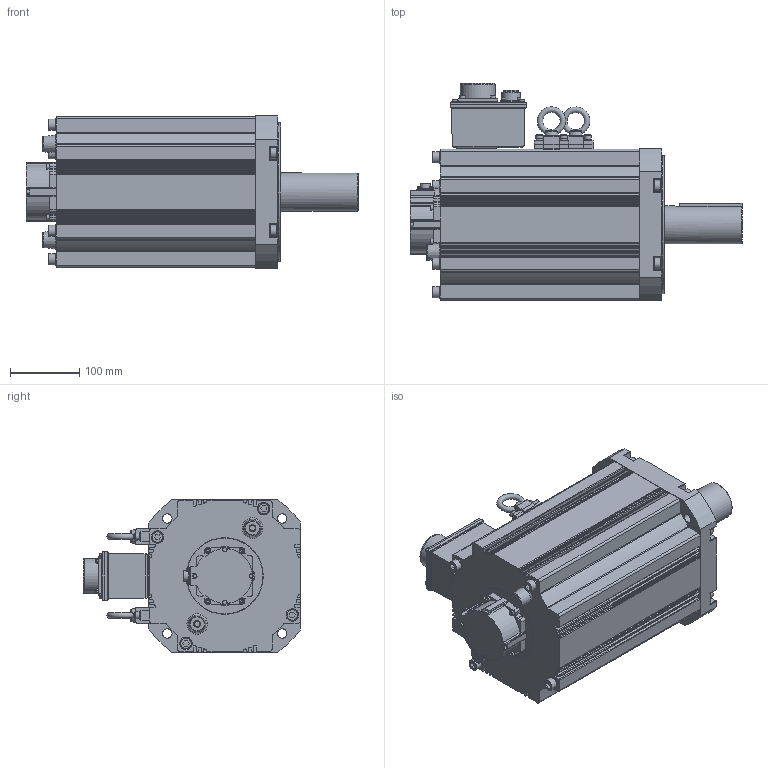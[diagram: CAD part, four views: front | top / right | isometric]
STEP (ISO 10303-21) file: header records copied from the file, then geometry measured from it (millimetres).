
FILE_DESCRIPTION( ( 'STEP AP0' ), '1' );
FILE_NAME( '//expscmdclustefs.cadenas.external/client_exchange/iodir/jobs/output/wkb64907999_no0/STEP/MDMEC14G1H_2_03.stp', ' ', ( ' ' ), ( ' ' ), 'PSStep 15.0.47', 'PARTsolutions', ' ' );
FILE_SCHEMA( ( 'CONFIG_CONTROL_DESIGN' ) );
Length unit declared in the file: millimetre
Products named in the file (1): HI_MDMEC14G1H
Bounding box: 480 x 315 x 220 mm (x, y, z)
Volume: 14411414.5 mm3; surface area: 536502.9 mm2
Topology: 1 solids, 1 shells, 1047 faces, 2684 edges, 1761 vertices
Faces by surface type: plane 605, cylinder 373, cone 50, torus 15, sphere 4
Full cylindrical faces by diameter (mm): 4.134 x1, 5 x4, 5.5 x8, 7 x12, 8 x14, 10 x6, 11 x4, 13.5 x4, 14.8 x1, 16 x12, 18 x12, 22.8 x1, 26.38 x1, 49.272 x1, 50.8 x1, 55 x1, 75 x1, 90 x1, 110 x1, 110.94 x1, 190 x1, 200 x1
Entity records: 31472 total; most frequent: CARTESIAN_POINT 6011, DIRECTION 5330, ORIENTED_EDGE 5036, EDGE_CURVE 2518, AXIS2_PLACEMENT_3D 1827, VERTEX_POINT 1750, LINE 1676, VECTOR 1676
